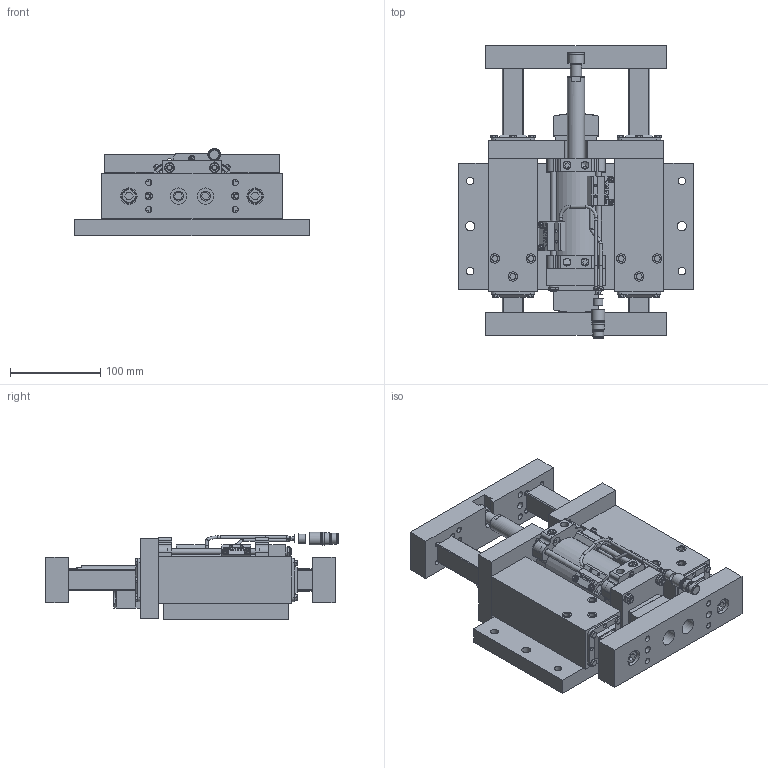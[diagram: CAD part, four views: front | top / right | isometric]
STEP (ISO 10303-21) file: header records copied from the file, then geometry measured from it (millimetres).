
FILE_DESCRIPTION(/* description */ (''),/* implementation_level */ '2;1');
FILE_NAME(/* name */ 'C:\Vault Workspace\CAD\Welker\Shot Pin\DBL24\STANDARD\DB2050B01XL3XXX0000-EXT.stp',/* time_stamp */ '2018-03-26T07:29:02-04:00',/* author */ ('KLabrecque'),/* organization */ (''),/* preprocessor_version */ 'ST-DEVELOPER v17',/* originating_system */ 'Autodesk Inventor 2018',/* authorisation */ '');
FILE_SCHEMA (('AUTOMOTIVE_DESIGN { 1 0 10303 214 3 1 1 }'));
Products named in the file (1): DB2L01_Shrinkwrap_1
Bounding box: 260 x 324.45 x 97.03 mm (x, y, z)
Volume: 2790563.1 mm3; surface area: 662062.1 mm2
Topology: 124 solids, 124 shells, 2547 faces, 6142 edges, 4049 vertices
Faces by surface type: plane 1390, cylinder 647, cone 448, bspline 44, torus 18
Full cylindrical faces by diameter (mm): 0.5 x1, 1.9 x2, 2.459 x4, 2.5 x1, 2.6 x2, 3 x8, 3.175 x17, 3.2 x6, 3.5 x4, 3.734 x16, 4 x2, 4.166 x16, 4.763 x32, 4.917 x12, 5 x2, 5.359 x8, 5.5 x4, 6 x12, 6.35 x2, 6.5 x32, 6.647 x14, 7 x8, 7.95 x4, 8 x28, 8.334 x12, 8.376 x12, 8.5 x12, 8.7 x12, 9.6 x1, 9.728 x1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
Entity records: 78062 total; most frequent: CARTESIAN_POINT 14928, DIRECTION 12737, ORIENTED_EDGE 12166, EDGE_CURVE 6083, AXIS2_PLACEMENT_3D 4754, VERTEX_POINT 4049, LINE 3229, VECTOR 3229
